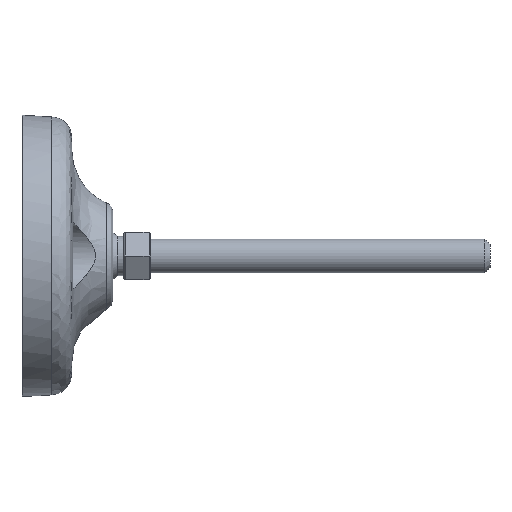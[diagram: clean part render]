
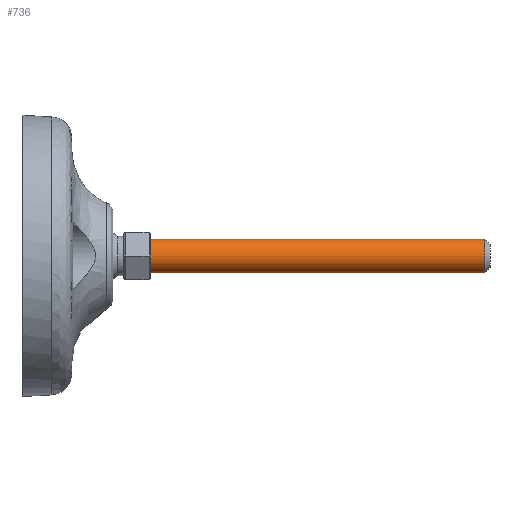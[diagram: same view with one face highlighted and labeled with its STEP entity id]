
A CAD part, front view. The second image highlights one B-rep face of the part: STEP entity #736.
In plain terms, the highlighted cylindrical face has radius 5 mm (diameter 10 mm), a full revolution.
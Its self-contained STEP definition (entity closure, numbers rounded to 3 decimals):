
#655=CARTESIAN_POINT('',(-650.678,-558.126,-19.626));
#656=VERTEX_POINT('',#655);
#657=CARTESIAN_POINT('',(-650.678,-568.126,-19.626));
#658=VERTEX_POINT('',#657);
#659=CARTESIAN_POINT('',(-650.678,-563.126,-19.626));
#660=DIRECTION('',(1.0,0.0,0.0));
#661=DIRECTION('',(0.0,-1.0,0.0));
#662=AXIS2_PLACEMENT_3D('',#659,#660,#661);
#663=CIRCLE('',#662,5.0);
#664=EDGE_CURVE('',#656,#658,#663,.T.);
#666=CARTESIAN_POINT('',(-650.678,-563.126,-19.626));
#667=DIRECTION('',(1.0,0.0,0.0));
#668=DIRECTION('',(0.0,-1.0,0.0));
#669=AXIS2_PLACEMENT_3D('',#666,#667,#668);
#670=CIRCLE('',#669,5.0);
#671=EDGE_CURVE('',#658,#656,#670,.T.);
#702=CARTESIAN_POINT('',(-650.678,-563.126,-19.626));
#703=DIRECTION('',(1.0,0.0,0.0));
#704=DIRECTION('',(0.0,-1.0,0.0));
#705=AXIS2_PLACEMENT_3D('',#702,#703,#704);
#706=CYLINDRICAL_SURFACE('',#705,5.0);
#707=ORIENTED_EDGE('',*,*,#671,.T.);
#708=ORIENTED_EDGE('',*,*,#664,.T.);
#709=CARTESIAN_POINT('',(-552.178,-568.126,-19.626));
#710=VERTEX_POINT('',#709);
#711=CARTESIAN_POINT('',(-650.678,-568.126,-19.626));
#712=DIRECTION('',(1.0,0.0,0.0));
#713=VECTOR('',#712,98.5);
#714=LINE('',#711,#713);
#715=EDGE_CURVE('',#658,#710,#714,.T.);
#716=ORIENTED_EDGE('',*,*,#715,.T.);
#717=CARTESIAN_POINT('',(-552.178,-558.126,-19.626));
#718=VERTEX_POINT('',#717);
#719=CARTESIAN_POINT('',(-552.178,-563.126,-19.626));
#720=DIRECTION('',(1.0,0.0,0.0));
#721=DIRECTION('',(0.0,-1.0,0.0));
#722=AXIS2_PLACEMENT_3D('',#719,#720,#721);
#723=CIRCLE('',#722,5.0);
#724=EDGE_CURVE('',#718,#710,#723,.T.);
#725=ORIENTED_EDGE('',*,*,#724,.F.);
#726=CARTESIAN_POINT('',(-552.178,-563.126,-19.626));
#727=DIRECTION('',(1.0,0.0,0.0));
#728=DIRECTION('',(0.0,-1.0,0.0));
#729=AXIS2_PLACEMENT_3D('',#726,#727,#728);
#730=CIRCLE('',#729,5.0);
#731=EDGE_CURVE('',#710,#718,#730,.T.);
#732=ORIENTED_EDGE('',*,*,#731,.F.);
#733=ORIENTED_EDGE('',*,*,#715,.F.);
#734=EDGE_LOOP('',(#707,#708,#716,#725,#732,#733));
#735=FACE_OUTER_BOUND('',#734,.T.);
#736=ADVANCED_FACE('',(#735),#706,.T.);
